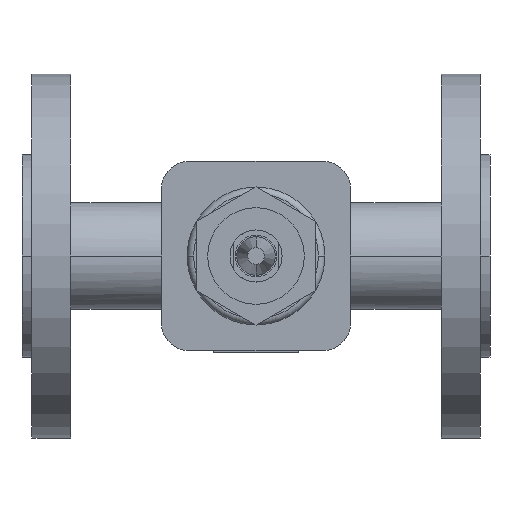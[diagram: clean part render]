
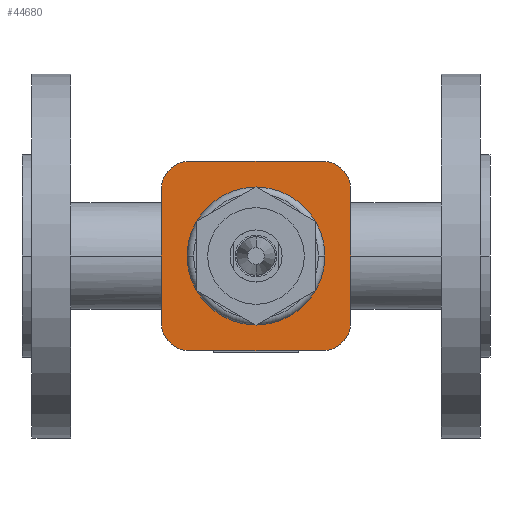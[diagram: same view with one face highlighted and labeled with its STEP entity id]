
A CAD part, front view. The second image highlights one B-rep face of the part: STEP entity #44680.
In plain terms, the highlighted planar face has unit normal (0, -1, 0).
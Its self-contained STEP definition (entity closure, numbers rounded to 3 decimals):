
#15390=CARTESIAN_POINT('',(116.5,-70.5,0.));
#15400=VERTEX_POINT('',#15390);
#15450=CARTESIAN_POINT('',(90.,-70.5,0.));
#15460=DIRECTION('',(0.,1.,0.));
#15470=DIRECTION('',(1.,0.,0.));
#15480=AXIS2_PLACEMENT_3D('',#15450,#15460,#15470);
#15490=CIRCLE('',#15480,26.5);
#15500=CARTESIAN_POINT('',(63.5,-70.5,0.));
#15510=VERTEX_POINT('',#15500);
#15520=EDGE_CURVE('',#15400,#15510,#15490,.T.);
#33590=CARTESIAN_POINT('',(115.456,-70.5,-36.456));
#33600=VERTEX_POINT('',#33590);
#33770=CARTESIAN_POINT('',(64.544,-70.5,-36.456));
#33780=VERTEX_POINT('',#33770);
#33810=CARTESIAN_POINT('',(121.353,-70.5,-36.456));
#33820=DIRECTION('',(1.,0.,0.));
#33830=VECTOR('',#33820,1.);
#33840=LINE('',#33810,#33830);
#33850=EDGE_CURVE('',#33780,#33600,#33840,.T.);
#40630=CARTESIAN_POINT('',(53.544,-70.5,-25.456));
#40640=VERTEX_POINT('',#40630);
#40670=CARTESIAN_POINT('',(64.544,-70.5,-25.456));
#40680=DIRECTION('',(0.,-1.,0.));
#40690=DIRECTION('',(0.,0.,-1.));
#40700=AXIS2_PLACEMENT_3D('',#40670,#40680,#40690);
#40710=CIRCLE('',#40700,11.);
#40720=EDGE_CURVE('',#40640,#33780,#40710,.T.);
#41770=CARTESIAN_POINT('',(126.456,-70.5,-25.456));
#41780=VERTEX_POINT('',#41770);
#41830=CARTESIAN_POINT('',(115.456,-70.5,-25.456));
#41840=DIRECTION('',(0.,-1.,0.));
#41850=DIRECTION('',(1.,0.,0.));
#41860=AXIS2_PLACEMENT_3D('',#41830,#41840,#41850);
#41870=CIRCLE('',#41860,11.);
#41880=EDGE_CURVE('',#33600,#41780,#41870,.T.);
#42110=CARTESIAN_POINT('',(53.544,-70.5,25.456));
#42120=VERTEX_POINT('',#42110);
#42150=CARTESIAN_POINT('',(53.544,-70.5,-12.728));
#42160=DIRECTION('',(0.,0.,-1.));
#42170=VECTOR('',#42160,1.);
#42180=LINE('',#42150,#42170);
#42190=EDGE_CURVE('',#42120,#40640,#42180,.T.);
#44200=CARTESIAN_POINT('',(127.25,-70.5,0.));
#44210=DIRECTION('',(0.,-1.,0.));
#44220=DIRECTION('',(-1.,0.,0.));
#44230=AXIS2_PLACEMENT_3D('',#44200,#44210,#44220);
#44240=PLANE('',#44230);
#44250=CARTESIAN_POINT('',(64.544,-70.5,25.456));
#44260=DIRECTION('',(0.,-1.,0.));
#44270=DIRECTION('',(-1.,0.,0.));
#44280=AXIS2_PLACEMENT_3D('',#44250,#44260,#44270);
#44290=CIRCLE('',#44280,11.);
#44300=CARTESIAN_POINT('',(64.544,-70.5,36.456));
#44310=VERTEX_POINT('',#44300);
#44320=EDGE_CURVE('',#44310,#42120,#44290,.T.);
#44330=ORIENTED_EDGE('',*,*,#44320,.T.);
#44340=CARTESIAN_POINT('',(95.897,-70.5,36.456));
#44350=DIRECTION('',(-1.,0.,0.));
#44360=VECTOR('',#44350,1.);
#44370=LINE('',#44340,#44360);
#44380=CARTESIAN_POINT('',(115.456,-70.5,36.456));
#44390=VERTEX_POINT('',#44380);
#44400=EDGE_CURVE('',#44390,#44310,#44370,.T.);
#44410=ORIENTED_EDGE('',*,*,#44400,.T.);
#44420=CARTESIAN_POINT('',(115.456,-70.5,25.456));
#44430=DIRECTION('',(0.,-1.,0.));
#44440=DIRECTION('',(0.,0.,1.));
#44450=AXIS2_PLACEMENT_3D('',#44420,#44430,#44440);
#44460=CIRCLE('',#44450,11.);
#44470=CARTESIAN_POINT('',(126.456,-70.5,25.456));
#44480=VERTEX_POINT('',#44470);
#44490=EDGE_CURVE('',#44480,#44390,#44460,.T.);
#44500=ORIENTED_EDGE('',*,*,#44490,.T.);
#44510=CARTESIAN_POINT('',(126.456,-70.5,12.728));
#44520=DIRECTION('',(0.,0.,1.));
#44530=VECTOR('',#44520,1.);
#44540=LINE('',#44510,#44530);
#44550=EDGE_CURVE('',#41780,#44480,#44540,.T.);
#44560=ORIENTED_EDGE('',*,*,#44550,.T.);
#44570=ORIENTED_EDGE('',*,*,#41880,.T.);
#44580=ORIENTED_EDGE('',*,*,#33850,.T.);
#44590=ORIENTED_EDGE('',*,*,#40720,.T.);
#44600=ORIENTED_EDGE('',*,*,#42190,.T.);
#44610=EDGE_LOOP('',(#44600,#44590,#44580,#44570,#44560,#44500,#44410,
#44330));
#44620=FACE_OUTER_BOUND('',#44610,.T.);
#44630=EDGE_CURVE('',#15510,#15400,#15490,.T.);
#44640=ORIENTED_EDGE('',*,*,#44630,.T.);
#44650=ORIENTED_EDGE('',*,*,#15520,.T.);
#44660=EDGE_LOOP('',(#44650,#44640));
#44670=FACE_BOUND('',#44660,.T.);
#44680=ADVANCED_FACE('',(#44620,#44670),#44240,.T.);
